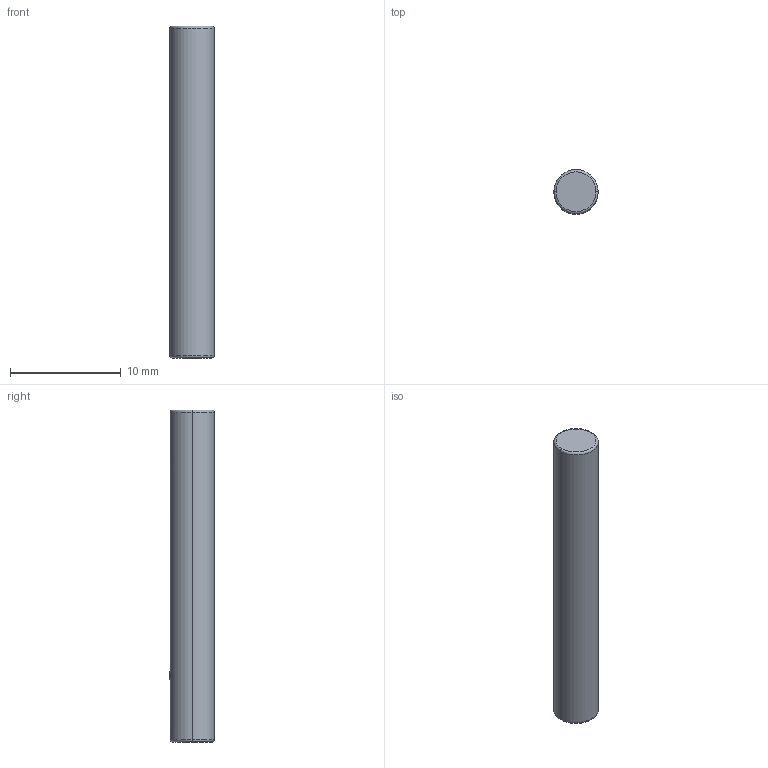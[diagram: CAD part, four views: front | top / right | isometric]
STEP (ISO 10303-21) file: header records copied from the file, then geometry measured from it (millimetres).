
FILE_DESCRIPTION (( 'STEP AP203' ), '1' );
FILE_NAME ('Bi-EH04-X.step', '2012-07-16T17:50:12', ( 'Turck User' ), ( '' ), 'SwSTEP 2.0', 'SolidWorks 2012', '' );
FILE_SCHEMA (( 'CONFIG_CONTROL_DESIGN' ));
Length unit declared in the file: millimetre
Products named in the file (1): Bi-EH04-X
Bounding box: 4 x 4.05 x 30 mm (x, y, z)
Volume: 376.8 mm3; surface area: 400 mm2
Topology: 1 solids, 1 shells, 11 faces, 20 edges, 12 vertices
Faces by surface type: torus 4, plane 3, bspline 2, cylinder 2
Entity records: 449 total; most frequent: CARTESIAN_POINT 156, DIRECTION 50, ORIENTED_EDGE 40, AXIS2_PLACEMENT_3D 24, EDGE_CURVE 20, CIRCLE 14, VERTEX_POINT 12, EDGE_LOOP 12
